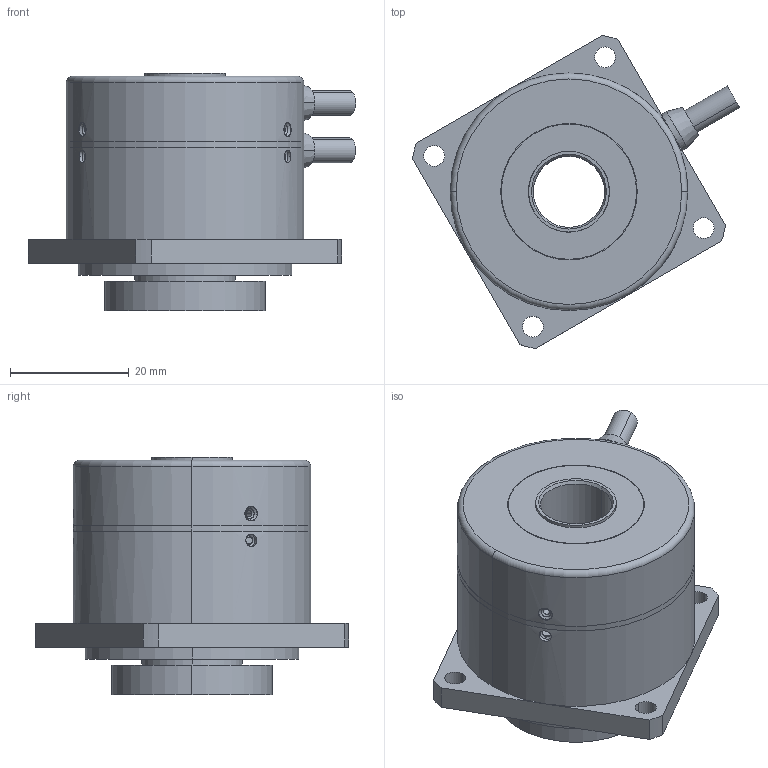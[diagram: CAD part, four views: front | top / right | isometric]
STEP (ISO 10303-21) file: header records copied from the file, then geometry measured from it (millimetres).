
FILE_DESCRIPTION(('STEP AP203'),'1');
FILE_NAME('//192.168.0.150/share/モータ部/0.一般/00.パスボックス/MDH40(12)_3D Model/MDH4006(12)_3Dモデル.step','2018-06-15T00:40:53',(' '),(' '),'Spatial InterOp 3D',' ',' ');
FILE_SCHEMA(('CONFIG_CONTROL_DESIGN'));
Length unit declared in the file: millimetre
Products named in the file (12): 1; 2; 3; 4; 5; 6; 7; 8; 9; 10; 11; 12
Bounding box: 55.15 x 52.78 x 40 mm (x, y, z)
Volume: 18975.5 mm3; surface area: 24797.4 mm2
Topology: 11 solids, 11 shells, 376 faces, 965 edges, 619 vertices
Faces by surface type: cylinder 173, plane 112, cone 82, torus 6, bspline 3
Entity records: 12661 total; most frequent: CARTESIAN_POINT 2677, DIRECTION 2118, ORIENTED_EDGE 1894, EDGE_CURVE 947, AXIS2_PLACEMENT_3D 845, VERTEX_POINT 616, CIRCLE 456, EDGE_LOOP 449
